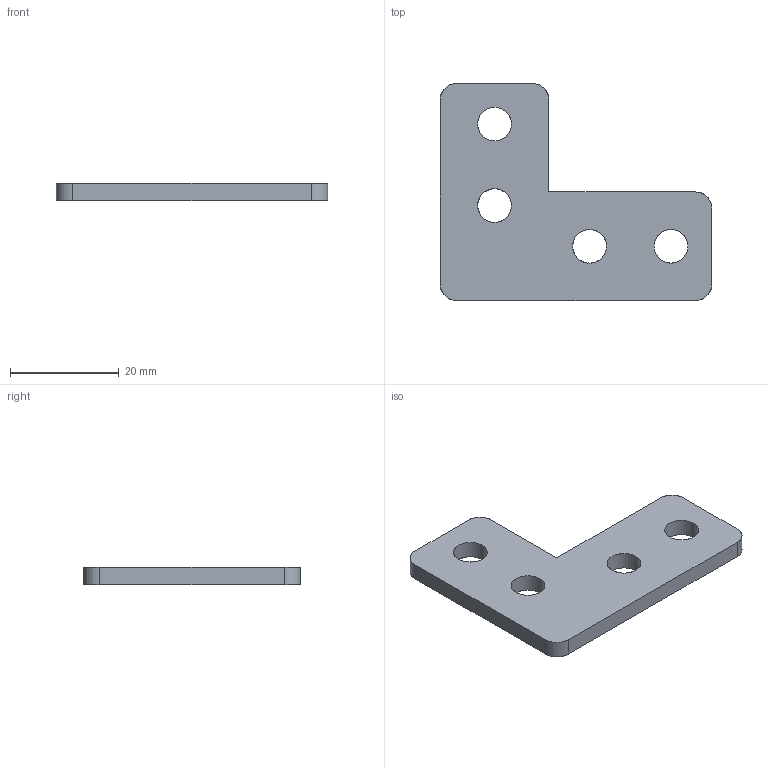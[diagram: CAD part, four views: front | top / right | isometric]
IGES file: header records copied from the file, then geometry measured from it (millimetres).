
Start section: SolidWorks IGES file using analytic representation for surfaces
Global section: file name: C:\Documents and Settings\CAD53\デスクトップ\IGES\N01913-201-0.IGS; native system: SolidWorks 2005 by SolidWorks Corporation; preprocessor: SolidWorks 2005 by SolidWorks Corporation; author: CAD53; date: 070530.091837; units: millimetre
Bounding box: 50 x 40 x 3.2 mm (x, y, z)
Surface area: 3343.9 mm2 (no closed solid volume)
Topology: 0 solids, 0 shells, 21 faces, 424 edges, 424 vertices
Faces by surface type: revolution 13, bspline 8
